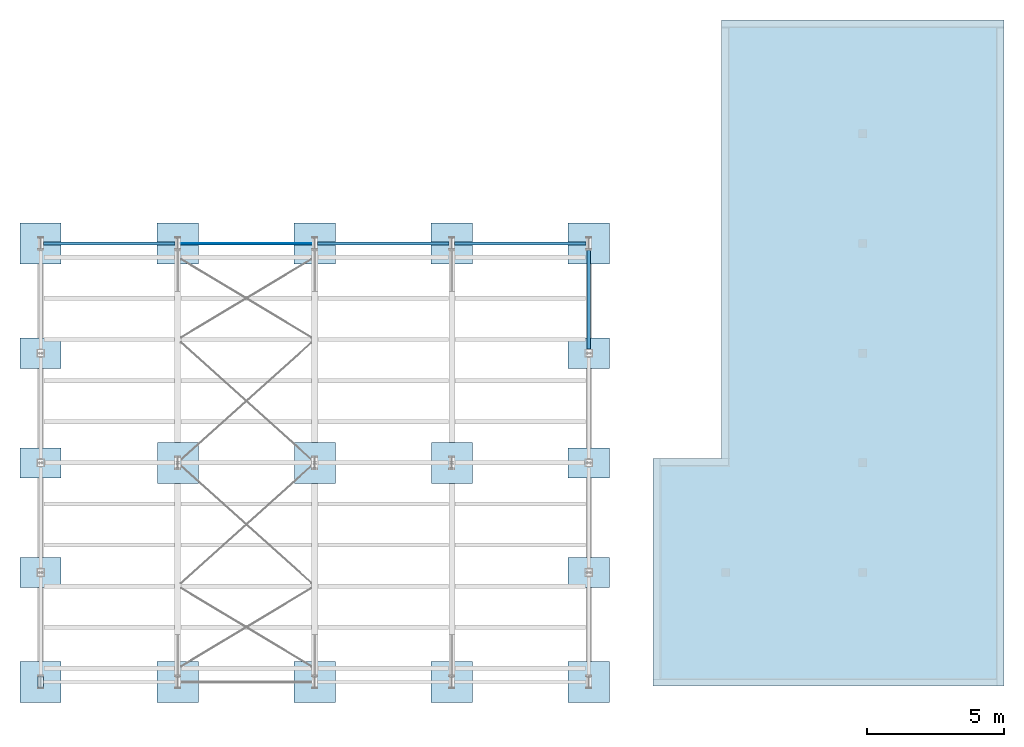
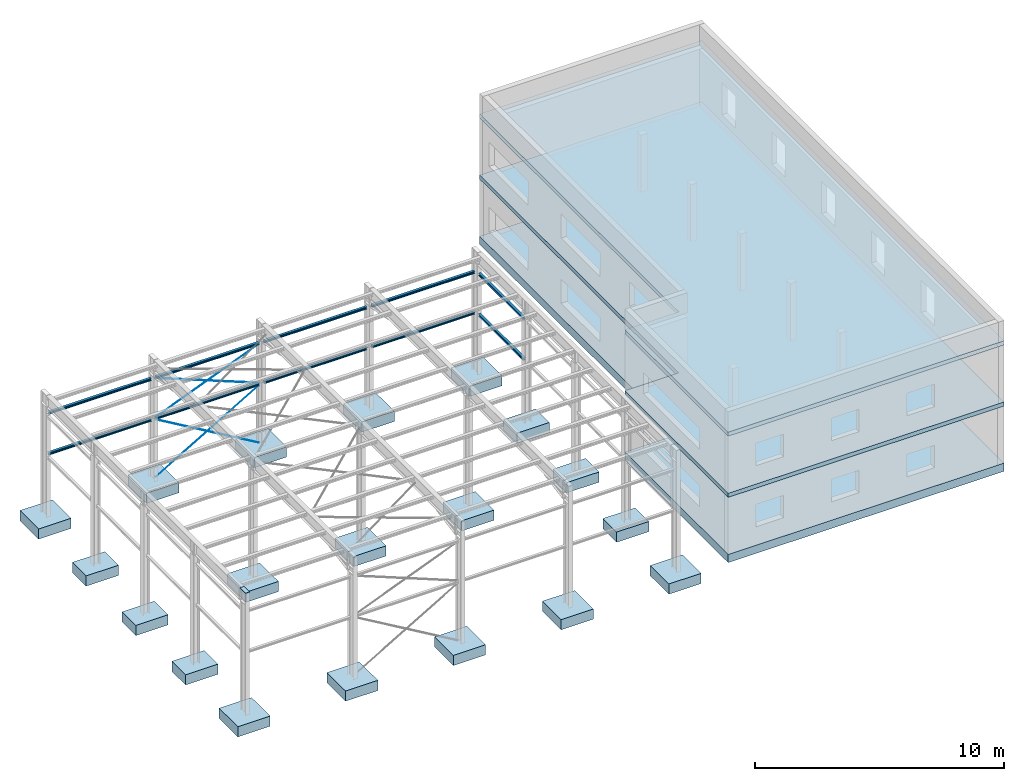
# Not in any storey, part 5 of 50: 22 slabs, 14 beams, 1 plate.
"""IFC4 model written with IfcOpenShell, lengths in metres."""

from ifc_helpers import new_model, entity, si_unit, converted_unit, derived_unit, direction, frame, origin, origin_with_axes, place, context, subcontext, project, spatial, polyline, line, arc, indexed_curve, outline, extrude, source, transform, mapped, material, layer, layer_set, type_object, type_shapes, element, save


model = new_model("IFC4")

# Units and contexts
model_context = context("Model", 3, precision=1e-05, world=origin(), true_north=direction((6.123233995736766e-17, 1.0)))
body_context = subcontext(model_context, "Body", "Model", "MODEL_VIEW")
ifc_project = project(units=[si_unit("LENGTHUNIT", "METRE"), si_unit("AREAUNIT", "SQUARE_METRE"), converted_unit("PLANEANGLEUNIT", "DEGREE", entity("IfcPlaneAngleMeasure", 0.017453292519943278), si_unit("PLANEANGLEUNIT", "RADIAN"), dimensions=[0, 0, 0, 0, 0, 0, 0]), si_unit("VOLUMEUNIT", "CUBIC_METRE"), derived_unit("THERMALTRANSMITTANCEUNIT", [(si_unit("MASSUNIT", "GRAM", prefix="KILO"), 1), (si_unit("THERMODYNAMICTEMPERATUREUNIT", "KELVIN"), -1), (si_unit("TIMEUNIT", "SECOND"), -3)])], contexts=[model_context])

# Site
site_placement = place(None, origin())
site = spatial("IfcSite", under=ifc_project, at=site_placement, Name="Default", CompositionType="ELEMENT")

# Beams
ifc_material_1 = material(Name="Metall - Baustahl S235", Category="Metall")
beam_type_1 = type_object("IfcBeamType", Name="HEA Träger:HEA 120", PredefinedType="BEAM", material=ifc_material_1)
shared_shape_1 = source(origin(), body_context, "Body", "SweptSolid", [
    extrude(outline(indexed_curve([(-0.060000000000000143, -0.04899999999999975), (-0.060000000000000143, -0.05700000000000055), (0.06000000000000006, -0.05700000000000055), (0.06000000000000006, -0.04899999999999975), (0.01449999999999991, -0.04899999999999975), (0.006014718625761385, -0.04548528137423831), (0.002499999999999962, -0.036999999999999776), (0.002499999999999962, 0.037000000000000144), (0.00601471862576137, 0.04548528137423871), (0.014499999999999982, 0.049000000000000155), (0.06000000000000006, 0.049000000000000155), (0.06000000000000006, 0.05699999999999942), (-0.05999999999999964, 0.05699999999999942), (-0.05999999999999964, 0.049000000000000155), (-0.014500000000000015, 0.049000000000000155), (-0.0060147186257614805, 0.04548528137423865), (-0.002500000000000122, 0.03700000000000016), (-0.002500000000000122, -0.03699999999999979), (-0.006014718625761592, -0.045485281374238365), (-0.014500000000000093, -0.04899999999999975)], segments=[line(1, 2, 3, 4, 5), arc(5, 6, 7), line(7, 8), arc(8, 9, 10), line(10, 11, 12, 13, 14, 15), arc(15, 16, 17), line(17, 18), arc(18, 19, 20), line(20, 1)], self_intersect=False)), frame((-2.392300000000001, 0.0, 0.0), z_axis=(-1.0, 0.0, 0.0), x_axis=(0.0, -1.0, 0.0)), (0.0, 0.0, -1.0), 4.784600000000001),
])
type_shapes(beam_type_1, [shared_shape_1])
for number, where, z_axis, x_axis in (
    (1, (20.69014487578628, 17.929767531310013, 2.9429999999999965), (0.0, 0.0, 1.0), (-1.0, 0.0, 0.0)),
    (2, (15.690144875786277, 17.929767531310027, 2.9429999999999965), (0.0, 0.0, 1.0), (-1.0, 0.0, 0.0)),
    (3, (10.690144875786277, 17.929767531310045, 2.9429999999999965), (0.0, 0.0, 1.0), (-1.0, 0.0, 0.0)),
    (4, (5.6901448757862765, 17.92976753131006, 2.9429999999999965), (0.0, 0.0, 1.0), (-1.0, 0.0, 0.0)),
    (5, (20.69014487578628, 17.929767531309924, 4.942999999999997), (0.0, 0.0, 1.0), (-1.0, 0.0, 0.0)),
    (6, (15.69014487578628, 17.92976753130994, 4.942999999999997), (0.0, 0.0, 1.0), (-1.0, 0.0, 0.0)),
    (7, (10.690144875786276, 17.929767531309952, 4.942999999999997), (0.0, 0.0, 1.0), (-1.0, 0.0, 0.0)),
    (8, (5.6901448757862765, 17.929767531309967, 4.942999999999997), (0.0, 0.0, 1.0), (-1.0, 0.0, 0.0)),
):
    element("IfcBeam", number, at=place(site_placement, frame(where, z_axis=z_axis, x_axis=x_axis)), inside=site, type_object=beam_type_1, material=ifc_material_1, Name="HEA Träger:HEA 120", ObjectType="HEA Träger:HEA 120", PredefinedType="BEAM", context=body_context, shape_type="MappedRepresentation", body=[
        mapped(shared_shape_1, transform((0.0, 0.0, 0.0), scale=1.0)),
    ])
beam_type_2 = type_object("IfcBeamType", Name="HEA Träger:HEA 120", PredefinedType="BEAM", material=ifc_material_1)
shared_shape_2 = source(origin(), body_context, "Body", "SweptSolid", [
    extrude(outline(indexed_curve([(-0.060000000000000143, -0.04899999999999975), (-0.060000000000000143, -0.05700000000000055), (0.06000000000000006, -0.05700000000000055), (0.06000000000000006, -0.04899999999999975), (0.01449999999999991, -0.04899999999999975), (0.006014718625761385, -0.04548528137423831), (0.002499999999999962, -0.036999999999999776), (0.002499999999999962, 0.037000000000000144), (0.00601471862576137, 0.04548528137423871), (0.014499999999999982, 0.049000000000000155), (0.06000000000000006, 0.049000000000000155), (0.06000000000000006, 0.05699999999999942), (-0.05999999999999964, 0.05699999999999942), (-0.05999999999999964, 0.049000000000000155), (-0.014500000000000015, 0.049000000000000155), (-0.0060147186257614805, 0.04548528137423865), (-0.002500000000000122, 0.03700000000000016), (-0.002500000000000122, -0.03699999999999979), (-0.006014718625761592, -0.045485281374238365), (-0.014500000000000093, -0.04899999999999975)], segments=[line(1, 2, 3, 4, 5), arc(5, 6, 7), line(7, 8), arc(8, 9, 10), line(10, 11, 12, 13, 14, 15), arc(15, 16, 17), line(17, 18), arc(18, 19, 20), line(20, 1)], self_intersect=False)), frame((-1.8372999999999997, 0.0, 0.0), z_axis=(-1.0, 0.0, 0.0), x_axis=(0.0, -1.0, 0.0)), (0.0, 0.0, -1.0), 3.5996000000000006),
])
type_shapes(beam_type_2, [shared_shape_2])
for number, where, z_axis, x_axis in (
    (9, (23.19014487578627, 15.92976753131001, 2.9429999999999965), (0.0, 0.0, 1.0), (0.0, 1.0, 0.0)),
    (10, (23.19014487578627, 15.929767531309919, 4.942999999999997), (0.0, 0.0, 1.0), (0.0, 1.0, 0.0)),
):
    element("IfcBeam", number, at=place(site_placement, frame(where, z_axis=z_axis, x_axis=x_axis)), inside=site, type_object=beam_type_2, material=ifc_material_1, Name="HEA Träger:HEA 120", ObjectType="HEA Träger:HEA 120", PredefinedType="BEAM", context=body_context, shape_type="MappedRepresentation", body=[
        mapped(shared_shape_2, transform((0.0, 0.0, 0.0), scale=1.0)),
    ])
beam_type_3 = type_object("IfcBeamType", Name="Rundstahl Träger:RB 20", PredefinedType="BEAM", material=ifc_material_1)
shared_shape_3 = source(origin(), body_context, "Body", "SweptSolid", [
    extrude(outline(indexed_curve([(-0.01, -8.269460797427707e-18), (-5.599682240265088e-17, -0.010000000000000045), (0.01, 8.269460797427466e-18), (-1.1359053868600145e-17, 0.009999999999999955)], segments=[arc(1, 2, 3), arc(3, 4, 1)], self_intersect=False)), frame((-2.7779499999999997, 0.0, 0.0), z_axis=(1.0, 0.0, 0.0), x_axis=(0.0, -1.0, 0.0)), (0.0, 0.0, 1.0), 5.5441),
])
type_shapes(beam_type_3, [shared_shape_3])
for number, where, z_axis, x_axis in (
    (11, (10.695217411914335, 17.929767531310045, 1.4628820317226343), (-0.5072536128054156, 0.0, 0.8617968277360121), (0.861796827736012, 0.0, 0.5072536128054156)),
    (12, (10.685072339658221, 17.92976753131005, 1.4628820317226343), (0.5072536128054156, 0.0, 0.8617968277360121), (-0.861796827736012, 0.0, 0.5072536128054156)),
):
    element("IfcBeam", number, at=place(site_placement, frame(where, z_axis=z_axis, x_axis=x_axis)), inside=site, type_object=beam_type_3, material=ifc_material_1, Name="Rundstahl Träger:RB 20", ObjectType="Rundstahl Träger:RB 20", PredefinedType="BEAM", context=body_context, shape_type="MappedRepresentation", body=[
        mapped(shared_shape_3, transform((0.0, 0.0, 0.0), scale=1.0)),
    ])
beam_type_4 = type_object("IfcBeamType", Name="Rundstahl Träger:RB 20", PredefinedType="BEAM", material=ifc_material_1)
shared_shape_4 = source(origin(), body_context, "Body", "SweptSolid", [
    extrude(outline(indexed_curve([(-0.01, 1.6155445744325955e-17), (-7.327514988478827e-17, -0.010000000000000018), (0.01, -1.6155445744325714e-17), (1.3551093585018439e-17, 0.009999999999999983)], segments=[arc(1, 2, 3), arc(3, 4, 1)], self_intersect=False)), frame((-2.5735500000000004, 0.0, 0.0), z_axis=(1.0, 0.0, 0.0), x_axis=(0.0, 1.0, 0.0)), (0.0, 0.0, 1.0), 5.147100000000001),
])
type_shapes(beam_type_4, [shared_shape_4])
for number, where, z_axis, x_axis in (
    (13, (10.6901448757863, 17.929767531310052, 3.9429999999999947), (0.3713906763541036, 0.0, 0.9284766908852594), (-0.9284766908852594, 0.0, 0.37139067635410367)),
    (14, (10.690144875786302, 17.929767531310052, 3.9429999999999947), (-0.3713906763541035, 0.0, 0.9284766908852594), (0.9284766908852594, 0.0, 0.37139067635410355)),
):
    element("IfcBeam", number, at=place(site_placement, frame(where, z_axis=z_axis, x_axis=x_axis)), inside=site, type_object=beam_type_4, material=ifc_material_1, Name="Rundstahl Träger:RB 20", ObjectType="Rundstahl Träger:RB 20", PredefinedType="BEAM", context=body_context, shape_type="MappedRepresentation", body=[
        mapped(shared_shape_4, transform((0.0, 0.0, 0.0), scale=1.0)),
    ])

# Slabs
slab_type_1 = type_object("IfcSlabType", Name="Einzelfundament:STB 1500 x 1500 x 500", PredefinedType="BASESLAB")
slab_1_placement = place(site_placement, origin())
element("IfcSlab", 15, at=slab_1_placement, inside=site, type_object=slab_type_1, Name="Einzelfundament:STB 1500 x 1500 x 500", ObjectType="Einzelfundament:STB 1500 x 1500 x 500", PredefinedType="BASESLAB", context=body_context, shape_type="SweptSolid", body=[
    extrude(outline(indexed_curve([(-0.7500000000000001, -0.7500000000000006), (0.7500000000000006, -0.7500000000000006), (0.7500000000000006, 0.7499999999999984), (-0.7500000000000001, 0.7499999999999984), (-0.7500000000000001, -0.7500000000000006)], self_intersect=False)), frame((3.1854448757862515, 17.929767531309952, -0.5000000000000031), z_axis=(0.0, 0.0, 1.0), x_axis=(-1.0, 0.0, 0.0)), (0.0, 0.0, 1.0), 0.5000000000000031),
])
slab_2_placement = place(site_placement, origin())
element("IfcSlab", 16, at=slab_2_placement, inside=site, type_object=slab_type_1, Name="Einzelfundament:STB 1500 x 1500 x 500", ObjectType="Einzelfundament:STB 1500 x 1500 x 500", PredefinedType="BASESLAB", context=body_context, shape_type="SweptSolid", body=[
    extrude(outline(indexed_curve([(-0.7500000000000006, -0.7500000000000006), (0.7499999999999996, -0.7500000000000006), (0.7499999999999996, 0.7499999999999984), (-0.7500000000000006, 0.7499999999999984), (-0.7500000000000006, -0.7500000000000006)], self_intersect=False)), frame((8.190144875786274, 17.92976753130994, -0.5000000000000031), z_axis=(0.0, 0.0, 1.0), x_axis=(-1.0, 0.0, 0.0)), (0.0, 0.0, 1.0), 0.5000000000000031),
])
slab_3_placement = place(site_placement, origin())
element("IfcSlab", 17, at=slab_3_placement, inside=site, type_object=slab_type_1, Name="Einzelfundament:STB 1500 x 1500 x 500", ObjectType="Einzelfundament:STB 1500 x 1500 x 500", PredefinedType="BASESLAB", context=body_context, shape_type="SweptSolid", body=[
    extrude(outline(indexed_curve([(-0.7500000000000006, -0.7499999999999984), (0.7500000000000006, -0.7499999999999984), (0.7500000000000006, 0.7500000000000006), (-0.7500000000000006, 0.7500000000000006), (-0.7500000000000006, -0.7499999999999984)], self_intersect=False)), frame((13.190144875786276, 17.929767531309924, -0.5000000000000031), z_axis=(0.0, 0.0, 1.0), x_axis=(-1.0, 0.0, 0.0)), (0.0, 0.0, 1.0), 0.5000000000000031),
])
slab_4_placement = place(site_placement, origin())
element("IfcSlab", 18, at=slab_4_placement, inside=site, type_object=slab_type_1, Name="Einzelfundament:STB 1500 x 1500 x 500", ObjectType="Einzelfundament:STB 1500 x 1500 x 500", PredefinedType="BASESLAB", context=body_context, shape_type="SweptSolid", body=[
    extrude(outline(indexed_curve([(-0.7500000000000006, -0.7500000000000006), (0.7500000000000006, -0.7500000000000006), (0.7500000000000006, 0.7499999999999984), (-0.7500000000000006, 0.7499999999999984), (-0.7500000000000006, -0.7500000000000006)], self_intersect=False)), frame((18.190144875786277, 17.929767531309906, -0.5000000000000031), z_axis=(0.0, 0.0, 1.0), x_axis=(-1.0, 0.0, 0.0)), (0.0, 0.0, 1.0), 0.5000000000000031),
])
slab_5_placement = place(site_placement, origin())
element("IfcSlab", 19, at=slab_5_placement, inside=site, type_object=slab_type_1, Name="Einzelfundament:STB 1500 x 1500 x 500", ObjectType="Einzelfundament:STB 1500 x 1500 x 500", PredefinedType="BASESLAB", context=body_context, shape_type="SweptSolid", body=[
    extrude(outline(indexed_curve([(-0.7499999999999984, -0.7500000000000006), (0.7500000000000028, -0.7500000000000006), (0.7500000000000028, 0.7499999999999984), (-0.7499999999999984, 0.7499999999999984), (-0.7499999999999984, -0.7500000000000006)], self_intersect=False)), frame((23.190144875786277, 17.929767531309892, -0.5000000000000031), z_axis=(0.0, 0.0, 1.0), x_axis=(-1.0, 0.0, 0.0)), (0.0, 0.0, 1.0), 0.5000000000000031),
])
slab_6_placement = place(site_placement, origin())
element("IfcSlab", 20, at=slab_6_placement, inside=site, type_object=slab_type_1, Name="Einzelfundament:STB 1500 x 1500 x 500", ObjectType="Einzelfundament:STB 1500 x 1500 x 500", PredefinedType="BASESLAB", context=body_context, shape_type="SweptSolid", body=[
    extrude(outline(indexed_curve([(-0.7499999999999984, -0.7500000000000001), (0.7500000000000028, -0.7500000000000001), (0.7500000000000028, 0.7499999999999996), (-0.7499999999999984, 0.7499999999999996), (-0.7499999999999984, -0.7500000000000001)], self_intersect=False)), frame((23.190144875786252, 1.9297675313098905, -0.5000000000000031), z_axis=(0.0, 0.0, 1.0), x_axis=(-1.0, 0.0, 0.0)), (0.0, 0.0, 1.0), 0.5000000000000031),
])
slab_7_placement = place(site_placement, origin())
element("IfcSlab", 21, at=slab_7_placement, inside=site, type_object=slab_type_1, Name="Einzelfundament:STB 1500 x 1500 x 500", ObjectType="Einzelfundament:STB 1500 x 1500 x 500", PredefinedType="BASESLAB", context=body_context, shape_type="SweptSolid", body=[
    extrude(outline(indexed_curve([(-0.7500000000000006, -0.7499999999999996), (0.7500000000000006, -0.7499999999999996), (0.7500000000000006, 0.7500000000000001), (-0.7500000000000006, 0.7500000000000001), (-0.7500000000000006, -0.7499999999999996)], self_intersect=False)), frame((18.19014487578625, 1.9297675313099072, -0.5000000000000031), z_axis=(0.0, 0.0, 1.0), x_axis=(-1.0, 0.0, 0.0)), (0.0, 0.0, 1.0), 0.5000000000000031),
])
slab_8_placement = place(site_placement, origin())
element("IfcSlab", 22, at=slab_8_placement, inside=site, type_object=slab_type_1, Name="Einzelfundament:STB 1500 x 1500 x 500", ObjectType="Einzelfundament:STB 1500 x 1500 x 500", PredefinedType="BASESLAB", context=body_context, shape_type="SweptSolid", body=[
    extrude(outline(indexed_curve([(-0.7500000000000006, -0.7500000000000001), (0.7500000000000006, -0.7500000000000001), (0.7500000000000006, 0.7499999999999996), (-0.7500000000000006, 0.7499999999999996), (-0.7500000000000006, -0.7500000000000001)], self_intersect=False)), frame((13.19014487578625, 1.929767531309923, -0.5000000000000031), z_axis=(0.0, 0.0, 1.0), x_axis=(-1.0, 0.0, 0.0)), (0.0, 0.0, 1.0), 0.5000000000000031),
])
slab_9_placement = place(site_placement, origin())
element("IfcSlab", 23, at=slab_9_placement, inside=site, type_object=slab_type_1, Name="Einzelfundament:STB 1500 x 1500 x 500", ObjectType="Einzelfundament:STB 1500 x 1500 x 500", PredefinedType="BASESLAB", context=body_context, shape_type="SweptSolid", body=[
    extrude(outline(indexed_curve([(-0.7500000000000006, -0.7499999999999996), (0.7499999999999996, -0.7499999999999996), (0.7499999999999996, 0.7500000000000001), (-0.7500000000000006, 0.7500000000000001), (-0.7500000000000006, -0.7499999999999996)], self_intersect=False)), frame((8.190144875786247, 1.9297675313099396, -0.5000000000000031), z_axis=(0.0, 0.0, 1.0), x_axis=(-1.0, 0.0, 0.0)), (0.0, 0.0, 1.0), 0.5000000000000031),
])
slab_10_placement = place(site_placement, origin())
element("IfcSlab", 24, at=slab_10_placement, inside=site, type_object=slab_type_1, Name="Einzelfundament:STB 1500 x 1500 x 500", ObjectType="Einzelfundament:STB 1500 x 1500 x 500", PredefinedType="BASESLAB", context=body_context, shape_type="SweptSolid", body=[
    extrude(outline(indexed_curve([(-0.7500000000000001, -0.7500000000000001), (0.7500000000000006, -0.7500000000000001), (0.7500000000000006, 0.7499999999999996), (-0.7500000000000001, 0.7499999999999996), (-0.7500000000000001, -0.7500000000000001)], self_intersect=False)), frame((3.1901448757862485, 1.9297675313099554, -0.5000000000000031), z_axis=(0.0, 0.0, 1.0), x_axis=(-1.0, 0.0, 0.0)), (0.0, 0.0, 1.0), 0.5000000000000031),
])
slab_11_placement = place(site_placement, origin())
element("IfcSlab", 25, at=slab_11_placement, inside=site, type_object=slab_type_1, Name="Einzelfundament:STB 1500 x 1500 x 500", ObjectType="Einzelfundament:STB 1500 x 1500 x 500", PredefinedType="BASESLAB", context=body_context, shape_type="SweptSolid", body=[
    extrude(outline(indexed_curve([(-0.7500000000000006, -0.7500000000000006), (0.7500000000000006, -0.7500000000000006), (0.7500000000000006, 0.7499999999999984), (-0.7500000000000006, 0.7499999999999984), (-0.7500000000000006, -0.7500000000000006)], self_intersect=False)), frame((8.194844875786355, 9.929767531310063, -0.5000000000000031), z_axis=(0.0, 0.0, 1.0), x_axis=(-1.0, 0.0, 0.0)), (0.0, 0.0, 1.0), 0.5000000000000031),
])
slab_12_placement = place(site_placement, origin())
element("IfcSlab", 26, at=slab_12_placement, inside=site, type_object=slab_type_1, Name="Einzelfundament:STB 1500 x 1500 x 500", ObjectType="Einzelfundament:STB 1500 x 1500 x 500", PredefinedType="BASESLAB", context=body_context, shape_type="SweptSolid", body=[
    extrude(outline(indexed_curve([(-0.7500000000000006, -0.7500000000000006), (0.7500000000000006, -0.7500000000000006), (0.7500000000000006, 0.7499999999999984), (-0.7500000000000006, 0.7499999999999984), (-0.7500000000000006, -0.7500000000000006)], self_intersect=False)), frame((13.194844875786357, 9.929767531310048, -0.5000000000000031), z_axis=(0.0, 0.0, 1.0), x_axis=(-1.0, 0.0, 0.0)), (0.0, 0.0, 1.0), 0.5000000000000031),
])
slab_13_placement = place(site_placement, origin())
element("IfcSlab", 27, at=slab_13_placement, inside=site, type_object=slab_type_1, Name="Einzelfundament:STB 1500 x 1500 x 500", ObjectType="Einzelfundament:STB 1500 x 1500 x 500", PredefinedType="BASESLAB", context=body_context, shape_type="SweptSolid", body=[
    extrude(outline(indexed_curve([(-0.7500000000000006, -0.7500000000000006), (0.7500000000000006, -0.7500000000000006), (0.7500000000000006, 0.7499999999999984), (-0.7500000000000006, 0.7499999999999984), (-0.7500000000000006, -0.7500000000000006)], self_intersect=False)), frame((18.19484487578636, 9.929767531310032, -0.5000000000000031), z_axis=(0.0, 0.0, 1.0), x_axis=(-1.0, 0.0, 0.0)), (0.0, 0.0, 1.0), 0.5000000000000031),
])
slab_type_2 = type_object("IfcSlabType", Name="Einzelfundament:STB 1500 x 1100 x 500", PredefinedType="BASESLAB")
slab_14_placement = place(site_placement, origin())
element("IfcSlab", 28, at=slab_14_placement, inside=site, type_object=slab_type_2, Name="Einzelfundament:STB 1500 x 1100 x 500", ObjectType="Einzelfundament:STB 1500 x 1100 x 500", PredefinedType="BASESLAB", context=body_context, shape_type="SweptSolid", body=[
    extrude(outline(indexed_curve([(-0.7499999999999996, -0.5499999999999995), (0.7500000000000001, -0.5499999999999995), (0.7500000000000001, 0.5500000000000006), (-0.7499999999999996, 0.5500000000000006), (-0.7499999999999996, -0.5499999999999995)], self_intersect=False)), frame((3.1901448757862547, 5.929767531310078, -0.5000000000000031), z_axis=(0.0, 0.0, 1.0), x_axis=(-1.0, 0.0, 0.0)), (0.0, 0.0, 1.0), 0.5000000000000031),
])
slab_15_placement = place(site_placement, origin())
element("IfcSlab", 29, at=slab_15_placement, inside=site, type_object=slab_type_2, Name="Einzelfundament:STB 1500 x 1100 x 500", ObjectType="Einzelfundament:STB 1500 x 1100 x 500", PredefinedType="BASESLAB", context=body_context, shape_type="SweptSolid", body=[
    extrude(outline(indexed_curve([(-0.7499999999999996, -0.5500000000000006), (0.7500000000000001, -0.5500000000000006), (0.7500000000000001, 0.5499999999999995), (-0.7499999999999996, 0.5499999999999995), (-0.7499999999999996, -0.5500000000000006)], self_intersect=False)), frame((3.1901448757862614, 9.929767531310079, -0.5000000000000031), z_axis=(0.0, 0.0, 1.0), x_axis=(-1.0, 0.0, 0.0)), (0.0, 0.0, 1.0), 0.5000000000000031),
])
slab_16_placement = place(site_placement, origin())
element("IfcSlab", 30, at=slab_16_placement, inside=site, type_object=slab_type_2, Name="Einzelfundament:STB 1500 x 1100 x 500", ObjectType="Einzelfundament:STB 1500 x 1100 x 500", PredefinedType="BASESLAB", context=body_context, shape_type="SweptSolid", body=[
    extrude(outline(indexed_curve([(-0.7499999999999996, -0.5499999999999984), (0.7500000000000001, -0.5499999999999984), (0.7500000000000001, 0.5500000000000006), (-0.7499999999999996, 0.5500000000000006), (-0.7499999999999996, -0.5499999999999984)], self_intersect=False)), frame((3.1901448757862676, 13.92976753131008, -0.5000000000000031), z_axis=(0.0, 0.0, 1.0), x_axis=(-1.0, 0.0, 0.0)), (0.0, 0.0, 1.0), 0.5000000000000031),
])
slab_17_placement = place(site_placement, origin())
element("IfcSlab", 31, at=slab_17_placement, inside=site, type_object=slab_type_2, Name="Einzelfundament:STB 1500 x 1100 x 500", ObjectType="Einzelfundament:STB 1500 x 1100 x 500", PredefinedType="BASESLAB", context=body_context, shape_type="SweptSolid", body=[
    extrude(outline(indexed_curve([(-0.7499999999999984, -0.5499999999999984), (0.7500000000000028, -0.5499999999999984), (0.7500000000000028, 0.5500000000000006), (-0.7499999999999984, 0.5500000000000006), (-0.7499999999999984, -0.5499999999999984)], self_intersect=False)), frame((23.19014487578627, 13.929767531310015, -0.5000000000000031), z_axis=(0.0, 0.0, 1.0), x_axis=(-1.0, 0.0, 0.0)), (0.0, 0.0, 1.0), 0.5000000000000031),
])
slab_18_placement = place(site_placement, origin())
element("IfcSlab", 32, at=slab_18_placement, inside=site, type_object=slab_type_2, Name="Einzelfundament:STB 1500 x 1100 x 500", ObjectType="Einzelfundament:STB 1500 x 1100 x 500", PredefinedType="BASESLAB", context=body_context, shape_type="SweptSolid", body=[
    extrude(outline(indexed_curve([(-0.7500000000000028, -0.5500000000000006), (0.7499999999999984, -0.5500000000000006), (0.7499999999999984, 0.5499999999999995), (-0.7500000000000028, 0.5499999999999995), (-0.7500000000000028, -0.5500000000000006)], self_intersect=False)), frame((23.190144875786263, 9.929767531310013, -0.5000000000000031), z_axis=(0.0, 0.0, 1.0), x_axis=(-1.0, 0.0, 0.0)), (0.0, 0.0, 1.0), 0.5000000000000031),
])
slab_19_placement = place(site_placement, origin())
element("IfcSlab", 33, at=slab_19_placement, inside=site, type_object=slab_type_2, Name="Einzelfundament:STB 1500 x 1100 x 500", ObjectType="Einzelfundament:STB 1500 x 1100 x 500", PredefinedType="BASESLAB", context=body_context, shape_type="SweptSolid", body=[
    extrude(outline(indexed_curve([(-0.7499999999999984, -0.5499999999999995), (0.7500000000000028, -0.5499999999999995), (0.7500000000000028, 0.5500000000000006), (-0.7499999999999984, 0.5500000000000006), (-0.7499999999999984, -0.5499999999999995)], self_intersect=False)), frame((23.190144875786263, 5.929767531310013, -0.5000000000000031), z_axis=(0.0, 0.0, 1.0), x_axis=(-1.0, 0.0, 0.0)), (0.0, 0.0, 1.0), 0.5000000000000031),
])
ifc_material_2 = material(Name="Ortbeton - bewehrt", Category="Generisch")
slab_type_3 = type_object("IfcSlabType", Name="Geschossdecke:STB 200", PredefinedType="FLOOR", material=ifc_material_2)
slab_20_placement = place(site_placement, origin())
element("IfcSlab", 34, at=slab_20_placement, inside=site, type_object=slab_type_3, material=ifc_material_2, Name="Geschossdecke:STB 200", ObjectType="Geschossdecke:STB 200", PredefinedType="FLOOR", context=body_context, shape_type="SweptSolid", body=[
    extrude(outline(indexed_curve([(-10.869500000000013, -5.099999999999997), (-2.569500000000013, -5.099999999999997), (-2.569500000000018, -2.6000000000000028), (13.439000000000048, -2.600000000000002), (13.439000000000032, 7.700000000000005), (-10.869500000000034, 7.700000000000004), (-10.869500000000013, -5.099999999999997)], self_intersect=False)), frame((30.640144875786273, 12.649267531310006, 3.0), z_axis=(0.0, 0.0, -1.0), x_axis=(0.0, 1.0, 0.0)), (0.0, 0.0, 1.0), 0.2),
])
slab_21_placement = place(site_placement, origin())
element("IfcSlab", 35, at=slab_21_placement, inside=site, type_object=slab_type_3, material=ifc_material_2, Name="Geschossdecke:STB 200", ObjectType="Geschossdecke:STB 200", PredefinedType="FLOOR", context=body_context, shape_type="SweptSolid", body=[
    extrude(outline(indexed_curve([(-10.869500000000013, -5.099999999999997), (-2.569500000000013, -5.099999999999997), (-2.569500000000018, -2.6000000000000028), (13.439000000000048, -2.600000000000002), (13.439000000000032, 7.700000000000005), (-10.869500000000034, 7.700000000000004), (-10.869500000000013, -5.099999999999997)], self_intersect=False)), frame((30.640144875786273, 12.649267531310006, 6.0), z_axis=(0.0, 0.0, -1.0), x_axis=(0.0, 1.0, 0.0)), (0.0, 0.0, 1.0), 0.2),
])
slab_type_4 = type_object("IfcSlabType", Name="Bodenplatte:STB 400", PredefinedType="BASESLAB", material=ifc_material_2)
slab_22_placement = place(site_placement, origin())
element("IfcSlab", 36, at=slab_22_placement, inside=site, type_object=slab_type_4, material=ifc_material_2, Name="Bodenplatte:STB 400", ObjectType="Bodenplatte:STB 400", PredefinedType="BASESLAB", context=body_context, shape_type="SweptSolid", body=[
    extrude(outline(indexed_curve([(-10.869500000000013, -5.099999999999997), (-2.569500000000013, -5.099999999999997), (-2.569500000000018, -2.6000000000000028), (13.439000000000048, -2.600000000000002), (13.439000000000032, 7.700000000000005), (-10.869500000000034, 7.700000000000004), (-10.869500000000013, -5.099999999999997)], self_intersect=False)), frame((30.640144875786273, 12.649267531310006, 0.0), z_axis=(0.0, 0.0, -1.0), x_axis=(0.0, 1.0, 0.0)), (0.0, 0.0, 1.0), 0.4),
])

# Plate
ifc_material_3 = material(Name="Dachdeckung - Blechdach")
ifc_layer = layer(ifc_material_3, 20.0)
ifc_layer_set = layer_set([ifc_layer], Name="Dachdeckung - Blechdach")
plate_placement = place(site_placement, frame((3.285144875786, 2.1497675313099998, 5.98), z_axis=(0.0, 0.0, 1.0), x_axis=(-1.0, 0.0, 0.0)))
element("IfcPlate", 37, at=plate_placement, inside=site, material=ifc_layer_set, Name="Coverplate", ObjectType="Coverplate", context=model_context, shape_type="SweptSolid", body=[
    extrude(outline(polyline([(0.0, 0.0), (0.19, 0.0), (0.19, 0.44), (0.0, 0.44), (0.0, 0.0)])), origin_with_axes(), (0.0, 0.0, 1.0), 0.02),
])

save(model, "model.ifc")
